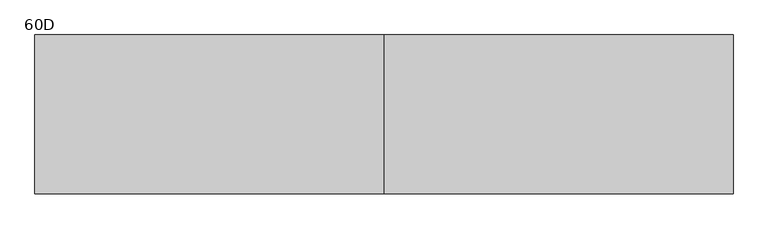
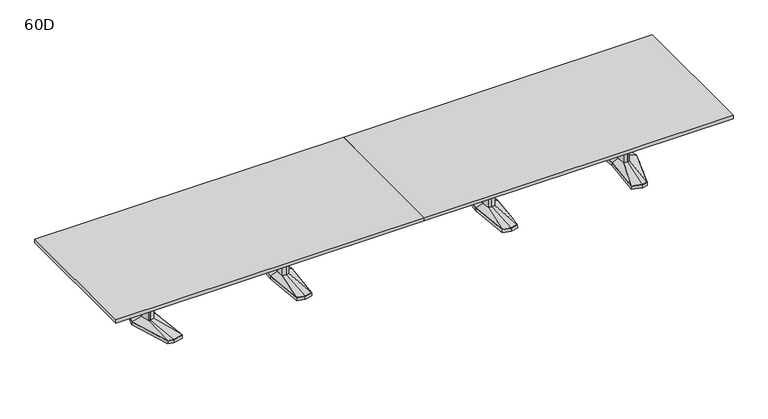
"""IFC4 building model written with IfcOpenShell, lengths in millimetres: furniture geometry, Coalesse_AM_Table_Conference_ETable2_Rectangular_22ft_AluminiumBase : 60D."""

from ifc_helpers import new_model, si_unit, frame, origin, place, context, project, spatial, polyline, outline, extrude, faceted_brep, source, transform, mapped, element, save
from ifc_brep_helpers import plane_surface, spline_surface, advanced_brep


def furniture_60d_99d75cea(model_context):
    return source(origin(), model_context, "Body", "SolidModel", [
        faceted_brep([(1036.3666209, -433.8053819, 38.1), (1117.6, -455.556576, 38.1), (1198.8333791, -433.8053819, 38.1), (1236.6564774, 0.0, 38.1), (1198.8333791, 433.8053819, 38.1), (1117.6, 455.556576, 38.1), (1036.3666209, 433.8053819, 38.1), (998.5435226, 0.0, 38.1), (1034.8817205, -435.0512063, 3.175), (996.95, 0.0, 3.175), (1034.8817205, 435.0512063, 3.175), (1117.6, 457.2, 3.175), (1200.3182795, 435.0512063, 3.175), (1238.25, 0.0, 3.175), (1200.3182795, -435.0512063, 3.175), (1117.6, -457.2, 3.175), (1117.6, 429.2617927, 3.175), (1039.6323194, 408.3850278, 3.175), (1042.8980179, 382.9646737, 3.175), (1117.6, 402.9670094, 3.175), (1192.3019821, 382.9646737, 3.175), (1195.5676806, 408.3850278, 3.175), (1117.6, -429.2617927, 3.175), (1195.5676806, -408.3850278, 3.175), (1192.3019821, -382.9646737, 3.175), (1117.6, -402.9670094, 3.175), (1042.8980179, -382.9646737, 3.175), (1039.6323194, -408.3850278, 3.175), (1045.7425738, 114.6326257, 3.175), (1035.0573924, 0.0, 3.175), (1045.7425738, -114.6326257, 3.175), (1117.6, -133.8761372, 3.175), (1189.4574262, -114.6326257, 3.175), (1200.1426076, 0.0, 3.175), (1189.4574262, 114.6326257, 3.175), (1117.6, 133.8761372, 3.175), (1117.6, 429.2617927, 0.0), (1195.5676806, 408.3850278, 0.0), (1192.3019821, 382.9646737, 0.0), (1117.6, 402.9670094, 0.0), (1042.8980179, 382.9646737, 0.0), (1039.6323194, 408.3850278, 0.0), (1117.6, -429.2617927, 0.0), (1039.6323194, -408.3850278, 0.0), (1042.8980179, -382.9646737, 0.0), (1117.6, -402.9670094, 0.0), (1192.3019821, -382.9646737, 0.0), (1195.5676806, -408.3850278, 0.0), (1045.7425738, 114.6326257, 0.0), (1117.6, 133.8761372, 0.0), (1189.4574262, 114.6326257, 0.0), (1200.1426076, 0.0, 0.0), (1189.4574262, -114.6326257, 0.0), (1117.6, -133.8761372, 0.0), (1045.7425738, -114.6326257, 0.0), (1035.0573924, 0.0, 0.0)], [[[0, 1, 2, 3, 4, 5, 6, 7]], [[8, 9, 10, 11, 12, 13, 14, 15], [16, 17, 18, 19, 20, 21], [22, 23, 24, 25, 26, 27], [28, 29, 30, 31, 32, 33, 34, 35]], [[1, 0, 8, 15]], [[2, 1, 15, 14]], [[3, 2, 14, 13]], [[4, 3, 13, 12]], [[5, 4, 12, 11]], [[6, 5, 11, 10]], [[7, 6, 10, 9]], [[0, 7, 9, 8]], [[36, 37, 38, 39, 40, 41]], [[42, 43, 44, 45, 46, 47]], [[48, 49, 50, 51, 52, 53, 54, 55]], [[36, 41, 17, 16]], [[41, 40, 18, 17]], [[40, 39, 19, 18]], [[39, 38, 20, 19]], [[38, 37, 21, 20]], [[37, 36, 16, 21]], [[42, 47, 23, 22]], [[47, 46, 24, 23]], [[46, 45, 25, 24]], [[45, 44, 26, 25]], [[44, 43, 27, 26]], [[43, 42, 22, 27]], [[48, 55, 29, 28]], [[55, 54, 30, 29]], [[54, 53, 31, 30]], [[53, 52, 32, 31]], [[52, 51, 33, 32]], [[51, 50, 34, 33]], [[50, 49, 35, 34]], [[49, 48, 28, 35]]]),
        faceted_brep([(1081.2167166, 84.6900825, 698.5), (1073.3225513, 0.0, 698.5), (1081.2167166, -84.6900825, 698.5), (1117.6, -94.4335728, 698.5), (1153.9832834, -84.6900825, 698.5), (1161.8774487, 0.0, 698.5), (1153.9832834, 84.6900825, 698.5), (1117.6, 94.4335728, 698.5), (1081.2167166, 84.6900825, 63.5), (1117.6, 94.4335728, 63.5), (1153.9832834, 84.6900825, 63.5), (1161.8774487, 0.0, 63.5), (1153.9832834, -84.6900825, 63.5), (1117.6, -94.4335728, 63.5), (1081.2167166, -84.6900825, 63.5), (1073.3225513, 0.0, 63.5)], [[[0, 1, 2, 3, 4, 5, 6, 7]], [[8, 9, 10, 11, 12, 13, 14, 15]], [[1, 0, 8, 15]], [[2, 1, 15, 14]], [[3, 2, 14, 13]], [[4, 3, 13, 12]], [[5, 4, 12, 11]], [[6, 5, 11, 10]], [[7, 6, 10, 9]], [[0, 7, 9, 8]]]),
        advanced_brep(
        [(1081.2167166, 84.6900825, 63.5), (1073.3225513, 0.0, 63.5), (1081.2167166, -84.6900825, 63.5), (1117.6, -94.4335728, 63.5), (1153.9832834, -84.6900825, 63.5), (1161.8774487, 0.0, 63.5), (1153.9832834, 84.6900825, 63.5), (1117.6, 94.4335728, 63.5), (1036.3666209, 433.8053819, 38.1), (1117.6, 455.556576, 38.1), (1198.8333791, 433.8053819, 38.1), (1236.6564774, 0.0, 38.1), (1198.8333791, -433.8053819, 38.1), (1117.6, -455.556576, 38.1), (1036.3666209, -433.8053819, 38.1), (998.5435226, 0.0, 38.1)],
        [
            (0, 1),
            (1, 2),
            (2, 3),
            (3, 4),
            (4, 5),
            (5, 6),
            (6, 7),
            (7, 0),
            (8, 9),
            (9, 10),
            (10, 11),
            (11, 12),
            (12, 13),
            (13, 14),
            (14, 15),
            (15, 8),
            (15, 1),
            (0, 8),
            (14, 2),
            (13, 3),
            (12, 4),
            (11, 5),
            (10, 6),
            (9, 7),
        ],
        [
            plane_surface(frame((1117.6, 0.0, 63.5), z_axis=(0.0, 0.0, 1.0000000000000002), x_axis=(-0.9659615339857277, -0.25868574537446, 0.0))),
            plane_surface(frame((1117.6, 0.0, 38.1), z_axis=(0.0, 0.0, -1.0000000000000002), x_axis=(-0.9659615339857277, -0.25868574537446, 0.0))),
            spline_surface(1, 1, [[(1036.3666209, 433.8053819, 38.1), (1081.2167166, 84.6900825, 63.5)], [(998.5435226, 0.0, 38.1), (1073.3225513, 0.0, 63.5)]], [2, 2], [2, 2], [0.0, 1.0], [0.0, 1.0]),
            spline_surface(1, 1, [[(998.5435226, 0.0, 38.1), (1073.3225513, 0.0, 63.5)], [(1036.3666209, -433.8053819, 38.1), (1081.2167166, -84.6900825, 63.5)]], [2, 2], [2, 2], [0.0, 1.0], [0.0, 1.0]),
            spline_surface(1, 1, [[(1036.3666209, -433.8053819, 38.1), (1081.2167166, -84.6900825, 63.5)], [(1117.6, -455.556576, 38.1), (1117.6, -94.4335728, 63.5)]], [2, 2], [2, 2], [0.0, 1.0], [0.0, 1.0]),
            spline_surface(1, 1, [[(1117.6, -455.556576, 38.1), (1117.6, -94.4335728, 63.5)], [(1198.8333791, -433.8053819, 38.1), (1153.9832834, -84.6900825, 63.5)]], [2, 2], [2, 2], [0.0, 1.0], [0.0, 1.0]),
            spline_surface(1, 1, [[(1198.8333791, -433.8053819, 38.1), (1153.9832834, -84.6900825, 63.5)], [(1236.6564774, 0.0, 38.1), (1161.8774487, 0.0, 63.5)]], [2, 2], [2, 2], [0.0, 1.0], [0.0, 1.0]),
            spline_surface(1, 1, [[(1236.6564774, 0.0, 38.1), (1161.8774487, 0.0, 63.5)], [(1198.8333791, 433.8053819, 38.1), (1153.9832834, 84.6900825, 63.5)]], [2, 2], [2, 2], [0.0, 1.0], [0.0, 1.0]),
            spline_surface(1, 1, [[(1198.8333791, 433.8053819, 38.1), (1153.9832834, 84.6900825, 63.5)], [(1117.6, 455.556576, 38.1), (1117.6, 94.4335728, 63.5)]], [2, 2], [2, 2], [0.0, 1.0], [0.0, 1.0]),
            spline_surface(1, 1, [[(1117.6, 455.556576, 38.1), (1117.6, 94.4335728, 63.5)], [(1036.3666209, 433.8053819, 38.1), (1081.2167166, 84.6900825, 63.5)]], [2, 2], [2, 2], [0.0, 1.0], [0.0, 1.0]),
        ],
        [
            (0, [[1, 2, 3, 4, 5, 6, 7, 8]]),
            (1, [[9, 10, 11, 12, 13, 14, 15, 16]]),
            (2, [[-16, 17, -1, 18]]),
            (3, [[-15, 19, -2, -17]]),
            (4, [[-14, 20, -3, -19]]),
            (5, [[-13, 21, -4, -20]]),
            (6, [[-12, 22, -5, -21]]),
            (7, [[-11, 23, -6, -22]]),
            (8, [[-10, 24, -7, -23]]),
            (9, [[-9, -18, -8, -24]]),
        ],
    ),
        faceted_brep([(-1198.8333791, -433.8053819, 38.1), (-1117.6, -455.556576, 38.1), (-1036.3666209, -433.8053819, 38.1), (-998.5435226, 0.0, 38.1), (-1036.3666209, 433.8053819, 38.1), (-1117.6, 455.556576, 38.1), (-1198.8333791, 433.8053819, 38.1), (-1236.6564774, 0.0, 38.1), (-1200.3182795, -435.0512063, 3.175), (-1238.25, 0.0, 3.175), (-1200.3182795, 435.0512063, 3.175), (-1117.6, 457.2, 3.175), (-1034.8817205, 435.0512063, 3.175), (-996.95, 0.0, 3.175), (-1034.8817205, -435.0512063, 3.175), (-1117.6, -457.2, 3.175), (-1117.6, 429.2617927, 3.175), (-1195.5676806, 408.3850278, 3.175), (-1192.3019821, 382.9646737, 3.175), (-1117.6, 402.9670094, 3.175), (-1042.8980179, 382.9646737, 3.175), (-1039.6323194, 408.3850278, 3.175), (-1117.6, -429.2617927, 3.175), (-1039.6323194, -408.3850278, 3.175), (-1042.8980179, -382.9646737, 3.175), (-1117.6, -402.9670094, 3.175), (-1192.3019821, -382.9646737, 3.175), (-1195.5676806, -408.3850278, 3.175), (-1189.4574262, 114.6326257, 3.175), (-1200.1426076, 0.0, 3.175), (-1189.4574262, -114.6326257, 3.175), (-1117.6, -133.8761372, 3.175), (-1045.7425738, -114.6326257, 3.175), (-1035.0573924, 0.0, 3.175), (-1045.7425738, 114.6326257, 3.175), (-1117.6, 133.8761372, 3.175), (-1117.6, 429.2617927, 0.0), (-1039.6323194, 408.3850278, 0.0), (-1042.8980179, 382.9646737, 0.0), (-1117.6, 402.9670094, 0.0), (-1192.3019821, 382.9646737, 0.0), (-1195.5676806, 408.3850278, 0.0), (-1117.6, -429.2617927, 0.0), (-1195.5676806, -408.3850278, 0.0), (-1192.3019821, -382.9646737, 0.0), (-1117.6, -402.9670094, 0.0), (-1042.8980179, -382.9646737, 0.0), (-1039.6323194, -408.3850278, 0.0), (-1189.4574262, 114.6326257, 0.0), (-1117.6, 133.8761372, 0.0), (-1045.7425738, 114.6326257, 0.0), (-1035.0573924, 0.0, 0.0), (-1045.7425738, -114.6326257, 0.0), (-1117.6, -133.8761372, 0.0), (-1189.4574262, -114.6326257, 0.0), (-1200.1426076, 0.0, 0.0)], [[[0, 1, 2, 3, 4, 5, 6, 7]], [[8, 9, 10, 11, 12, 13, 14, 15], [16, 17, 18, 19, 20, 21], [22, 23, 24, 25, 26, 27], [28, 29, 30, 31, 32, 33, 34, 35]], [[1, 0, 8, 15]], [[2, 1, 15, 14]], [[3, 2, 14, 13]], [[4, 3, 13, 12]], [[5, 4, 12, 11]], [[6, 5, 11, 10]], [[7, 6, 10, 9]], [[0, 7, 9, 8]], [[36, 37, 38, 39, 40, 41]], [[42, 43, 44, 45, 46, 47]], [[48, 49, 50, 51, 52, 53, 54, 55]], [[36, 41, 17, 16]], [[41, 40, 18, 17]], [[40, 39, 19, 18]], [[39, 38, 20, 19]], [[38, 37, 21, 20]], [[37, 36, 16, 21]], [[42, 47, 23, 22]], [[47, 46, 24, 23]], [[46, 45, 25, 24]], [[45, 44, 26, 25]], [[44, 43, 27, 26]], [[43, 42, 22, 27]], [[48, 55, 29, 28]], [[55, 54, 30, 29]], [[54, 53, 31, 30]], [[53, 52, 32, 31]], [[52, 51, 33, 32]], [[51, 50, 34, 33]], [[50, 49, 35, 34]], [[49, 48, 28, 35]]]),
        faceted_brep([(-1153.9832834, 84.6900825, 698.5), (-1161.8774487, 0.0, 698.5), (-1153.9832834, -84.6900825, 698.5), (-1117.6, -94.4335728, 698.5), (-1081.2167166, -84.6900825, 698.5), (-1073.3225513, 0.0, 698.5), (-1081.2167166, 84.6900825, 698.5), (-1117.6, 94.4335728, 698.5), (-1153.9832834, 84.6900825, 63.5), (-1117.6, 94.4335728, 63.5), (-1081.2167166, 84.6900825, 63.5), (-1073.3225513, 0.0, 63.5), (-1081.2167166, -84.6900825, 63.5), (-1117.6, -94.4335728, 63.5), (-1153.9832834, -84.6900825, 63.5), (-1161.8774487, 0.0, 63.5)], [[[0, 1, 2, 3, 4, 5, 6, 7]], [[8, 9, 10, 11, 12, 13, 14, 15]], [[1, 0, 8, 15]], [[2, 1, 15, 14]], [[3, 2, 14, 13]], [[4, 3, 13, 12]], [[5, 4, 12, 11]], [[6, 5, 11, 10]], [[7, 6, 10, 9]], [[0, 7, 9, 8]]]),
        advanced_brep(
        [(-1153.9832834, 84.6900825, 63.5), (-1161.8774487, 0.0, 63.5), (-1153.9832834, -84.6900825, 63.5), (-1117.6, -94.4335728, 63.5), (-1081.2167166, -84.6900825, 63.5), (-1073.3225513, 0.0, 63.5), (-1081.2167166, 84.6900825, 63.5), (-1117.6, 94.4335728, 63.5), (-1198.8333791, 433.8053819, 38.1), (-1117.6, 455.556576, 38.1), (-1036.3666209, 433.8053819, 38.1), (-998.5435226, 0.0, 38.1), (-1036.3666209, -433.8053819, 38.1), (-1117.6, -455.556576, 38.1), (-1198.8333791, -433.8053819, 38.1), (-1236.6564774, 0.0, 38.1)],
        [
            (0, 1),
            (1, 2),
            (2, 3),
            (3, 4),
            (4, 5),
            (5, 6),
            (6, 7),
            (7, 0),
            (8, 9),
            (9, 10),
            (10, 11),
            (11, 12),
            (12, 13),
            (13, 14),
            (14, 15),
            (15, 8),
            (15, 1),
            (0, 8),
            (14, 2),
            (13, 3),
            (12, 4),
            (11, 5),
            (10, 6),
            (9, 7),
        ],
        [
            plane_surface(frame((-1117.6, 0.0, 63.5), z_axis=(0.0, 0.0, 1.0000000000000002), x_axis=(-0.9659615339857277, -0.25868574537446, 0.0))),
            plane_surface(frame((-1117.6, 0.0, 38.1), z_axis=(0.0, 0.0, -1.0000000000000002), x_axis=(-0.9659615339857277, -0.25868574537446, 0.0))),
            spline_surface(1, 1, [[(-1198.8333791, 433.8053819, 38.1), (-1153.9832834, 84.6900825, 63.5)], [(-1236.6564774, 0.0, 38.1), (-1161.8774487, 0.0, 63.5)]], [2, 2], [2, 2], [0.0, 1.0], [0.0, 1.0]),
            spline_surface(1, 1, [[(-1236.6564774, 0.0, 38.1), (-1161.8774487, 0.0, 63.5)], [(-1198.8333791, -433.8053819, 38.1), (-1153.9832834, -84.6900825, 63.5)]], [2, 2], [2, 2], [0.0, 1.0], [0.0, 1.0]),
            spline_surface(1, 1, [[(-1198.8333791, -433.8053819, 38.1), (-1153.9832834, -84.6900825, 63.5)], [(-1117.6, -455.556576, 38.1), (-1117.6, -94.4335728, 63.5)]], [2, 2], [2, 2], [0.0, 1.0], [0.0, 1.0]),
            spline_surface(1, 1, [[(-1117.6, -455.556576, 38.1), (-1117.6, -94.4335728, 63.5)], [(-1036.3666209, -433.8053819, 38.1), (-1081.2167166, -84.6900825, 63.5)]], [2, 2], [2, 2], [0.0, 1.0], [0.0, 1.0]),
            spline_surface(1, 1, [[(-1036.3666209, -433.8053819, 38.1), (-1081.2167166, -84.6900825, 63.5)], [(-998.5435226, 0.0, 38.1), (-1073.3225513, 0.0, 63.5)]], [2, 2], [2, 2], [0.0, 1.0], [0.0, 1.0]),
            spline_surface(1, 1, [[(-998.5435226, 0.0, 38.1), (-1073.3225513, 0.0, 63.5)], [(-1036.3666209, 433.8053819, 38.1), (-1081.2167166, 84.6900825, 63.5)]], [2, 2], [2, 2], [0.0, 1.0], [0.0, 1.0]),
            spline_surface(1, 1, [[(-1036.3666209, 433.8053819, 38.1), (-1081.2167166, 84.6900825, 63.5)], [(-1117.6, 455.556576, 38.1), (-1117.6, 94.4335728, 63.5)]], [2, 2], [2, 2], [0.0, 1.0], [0.0, 1.0]),
            spline_surface(1, 1, [[(-1117.6, 455.556576, 38.1), (-1117.6, 94.4335728, 63.5)], [(-1198.8333791, 433.8053819, 38.1), (-1153.9832834, 84.6900825, 63.5)]], [2, 2], [2, 2], [0.0, 1.0], [0.0, 1.0]),
        ],
        [
            (0, [[1, 2, 3, 4, 5, 6, 7, 8]]),
            (1, [[9, 10, 11, 12, 13, 14, 15, 16]]),
            (2, [[-16, 17, -1, 18]]),
            (3, [[-15, 19, -2, -17]]),
            (4, [[-14, 20, -3, -19]]),
            (5, [[-13, 21, -4, -20]]),
            (6, [[-12, 22, -5, -21]]),
            (7, [[-11, 23, -6, -22]]),
            (8, [[-10, 24, -7, -23]]),
            (9, [[-9, -18, -8, -24]]),
        ],
    ),
        faceted_brep([(2548.0994335, 455.5848221, 38.1), (2438.5218777, 426.2263816, 38.1), (2479.6851217, 0.0, 38.1), (2438.5218777, -426.2263816, 38.1), (2548.0994335, -455.5848221, 38.1), (2604.2257896, -440.5478297, 38.1), (2741.5371769, 0.0, 38.1), (2604.2257896, 440.5478297, 38.1), (2548.0994254, 457.2283104, 3.175), (2605.4811972, 441.8549756, 3.175), (2743.2, 0.0, 3.175), (2605.4811972, -441.8549756, 3.175), (2548.0994254, -457.2283104, 3.175), (2436.8125, -427.4118891, 3.175), (2478.0902356, 0.0, 3.175), (2436.8125, 427.4118891, 3.175), (2551.688865, 428.3273875, 3.175), (2446.6405728, 402.1057253, 3.175), (2454.759268, 377.985069, 3.175), (2555.2782966, 401.0699529, 3.175), (2605.8379225, 387.524361, 3.175), (2605.0318561, 414.0360954, 3.175), (2551.688865, -428.3273875, 3.175), (2605.0318561, -414.0360954, 3.175), (2605.8379225, -387.524361, 3.175), (2555.2782966, -401.0699529, 3.175), (2454.759268, -377.985069, 3.175), (2446.6405728, -402.1057253, 3.175), (2678.2841121, 0.0, 3.175), (2646.0147111, 120.4193755, 3.175), (2597.3674722, 133.471665, 3.175), (2517.4868026, 119.4176561, 3.175), (2506.3555966, 0.0, 3.175), (2517.4868026, -119.4176561, 3.175), (2597.3674722, -133.471665, 3.175), (2646.0147111, -120.4193755, 3.175), (2551.688865, 428.3273875, 0.0), (2605.0318561, 414.0360954, 0.0), (2605.8379225, 387.524361, 0.0), (2555.2782966, 401.0699529, 0.0), (2454.759268, 377.985069, 0.0), (2446.6405728, 402.1057253, 0.0), (2551.688865, -428.3273875, 0.0), (2446.6405728, -402.1057253, 0.0), (2454.759268, -377.985069, 0.0), (2555.2782966, -401.0699529, 0.0), (2605.8379225, -387.524361, 0.0), (2605.0318561, -414.0360954, 0.0), (2678.2841121, 0.0, 0.0), (2646.0147111, -120.4193755, 0.0), (2597.3674722, -133.471665, 0.0), (2517.4868026, -119.4176561, 0.0), (2506.3555966, 0.0, 0.0), (2517.4868026, 119.4176561, 0.0), (2597.3674722, 133.471665, 0.0), (2646.0147111, 120.4193755, 0.0)], [[[0, 1, 2, 3, 4, 5, 6, 7]], [[8, 9, 10, 11, 12, 13, 14, 15], [16, 17, 18, 19, 20, 21], [22, 23, 24, 25, 26, 27], [28, 29, 30, 31, 32, 33, 34, 35]], [[7, 9, 8, 0]], [[6, 10, 9, 7]], [[5, 11, 10, 6]], [[4, 12, 11, 5]], [[3, 13, 12, 4]], [[2, 14, 13, 3]], [[1, 15, 14, 2]], [[0, 8, 15, 1]], [[36, 37, 38, 39, 40, 41]], [[42, 43, 44, 45, 46, 47]], [[48, 49, 50, 51, 52, 53, 54, 55]], [[36, 16, 21, 37]], [[37, 21, 20, 38]], [[38, 20, 19, 39]], [[39, 19, 18, 40]], [[40, 18, 17, 41]], [[41, 17, 16, 36]], [[42, 22, 27, 43]], [[43, 27, 26, 44]], [[44, 26, 25, 45]], [[45, 25, 24, 46]], [[46, 24, 23, 47]], [[47, 23, 22, 42]], [[48, 28, 35, 49]], [[49, 35, 34, 50]], [[50, 34, 33, 51]], [[51, 33, 32, 52]], [[52, 32, 31, 53]], [[53, 31, 30, 54]], [[54, 30, 29, 55]], [[55, 29, 28, 48]]]),
        faceted_brep([(2638.8398336, 0.0, 698.5), (2614.9046046, 89.3188359, 698.5), (2598.0512484, 93.8406728, 698.5), (2595.6514011, 94.4845635, 698.5), (2552.723896, 86.9320037, 698.5), (2544.6207556, 0.0, 698.5), (2552.723896, -86.9320037, 698.5), (2595.6514011, -94.4845635, 698.5), (2598.0512484, -93.8406728, 698.5), (2614.9046046, -89.3188359, 698.5), (2638.8398336, 0.0, 63.5), (2614.9046046, -89.3188359, 63.5), (2598.0512484, -93.8406728, 63.5), (2595.6514011, -94.4845635, 63.5), (2552.723896, -86.9320037, 63.5), (2544.6207556, 0.0, 63.5), (2552.723896, 86.9320037, 63.5), (2595.6514011, 94.4845635, 63.5), (2598.0512484, 93.8406728, 63.5), (2614.9046046, 89.3188359, 63.5)], [[[0, 1, 2, 3, 4, 5, 6, 7, 8, 9]], [[10, 11, 12, 13, 14, 15, 16, 17, 18, 19]], [[9, 11, 10, 0]], [[8, 12, 11, 9]], [[7, 13, 12, 8]], [[6, 14, 13, 7]], [[5, 15, 14, 6]], [[4, 16, 15, 5]], [[3, 17, 16, 4]], [[2, 18, 17, 3]], [[1, 19, 18, 2]], [[0, 10, 19, 1]]]),
        advanced_brep(
        [(2595.6514011, 94.4845635, 63.5), (2552.723896, 86.9320037, 63.5), (2544.6207556, 0.0, 63.5), (2552.723896, -86.9320037, 63.5), (2595.6514011, -94.4845635, 63.5), (2614.9046046, -89.3188359, 63.5), (2638.8398336, 0.0, 63.5), (2614.9046046, 89.3188359, 63.5), (2548.0994335, 455.5848221, 38.1), (2604.2257896, 440.5478297, 38.1), (2741.5371769, 0.0, 38.1), (2604.2257896, -440.5478297, 38.1), (2548.0994335, -455.5848221, 38.1), (2438.5218777, -426.2263816, 38.1), (2479.6851217, 0.0, 38.1), (2438.5218777, 426.2263816, 38.1)],
        [
            (0, 1),
            (1, 2),
            (2, 3),
            (3, 4),
            (4, 5),
            (5, 6),
            (6, 7),
            (7, 0),
            (8, 9),
            (9, 10),
            (10, 11),
            (11, 12),
            (12, 13),
            (13, 14),
            (14, 15),
            (15, 8),
            (8, 0),
            (7, 9),
            (6, 10),
            (5, 11),
            (4, 12),
            (3, 13),
            (2, 14),
            (1, 15),
        ],
        [
            plane_surface(frame((2588.7525491, 0.0, 63.5), z_axis=(0.0, 0.0, 1.0), x_axis=(-0.25884244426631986, -0.9659195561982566, 0.0))),
            plane_surface(frame((2550.3645625, 0.0, 38.1), z_axis=(0.0, 0.0, -1.0), x_axis=(-0.25884244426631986, -0.9659195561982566, 0.0))),
            spline_surface(1, 1, [[(2548.0994335, 455.5848221, 38.1), (2604.2257896, 440.5478297, 38.1)], [(2595.6514011, 94.4845635, 63.5), (2614.9046046, 89.3188359, 63.5)]], [2, 2], [2, 2], [0.0, 1.0], [0.0, 1.0]),
            spline_surface(1, 1, [[(2604.2257896, 440.5478297, 38.1), (2741.5371769, 0.0, 38.1)], [(2614.9046046, 89.3188359, 63.5), (2638.8398336, 0.0, 63.5)]], [2, 2], [2, 2], [0.0, 1.0], [0.0, 1.0]),
            spline_surface(1, 1, [[(2741.5371769, 0.0, 38.1), (2604.2257896, -440.5478297, 38.1)], [(2638.8398336, 0.0, 63.5), (2614.9046046, -89.3188359, 63.5)]], [2, 2], [2, 2], [0.0, 1.0], [0.0, 1.0]),
            spline_surface(1, 1, [[(2604.2257896, -440.5478297, 38.1), (2548.0994335, -455.5848221, 38.1)], [(2614.9046046, -89.3188359, 63.5), (2595.6514011, -94.4845635, 63.5)]], [2, 2], [2, 2], [0.0, 1.0], [0.0, 1.0]),
            spline_surface(1, 1, [[(2548.0994335, -455.5848221, 38.1), (2438.5218777, -426.2263816, 38.1)], [(2595.6514011, -94.4845635, 63.5), (2552.723896, -86.9320037, 63.5)]], [2, 2], [2, 2], [0.0, 1.0], [0.0, 1.0]),
            spline_surface(1, 1, [[(2438.5218777, -426.2263816, 38.1), (2479.6851217, 0.0, 38.1)], [(2552.723896, -86.9320037, 63.5), (2544.6207556, 0.0, 63.5)]], [2, 2], [2, 2], [0.0, 1.0], [0.0, 1.0]),
            spline_surface(1, 1, [[(2479.6851217, 0.0, 38.1), (2438.5218777, 426.2263816, 38.1)], [(2544.6207556, 0.0, 63.5), (2552.723896, 86.9320037, 63.5)]], [2, 2], [2, 2], [0.0, 1.0], [0.0, 1.0]),
            spline_surface(1, 1, [[(2438.5218777, 426.2263816, 38.1), (2548.0994335, 455.5848221, 38.1)], [(2552.723896, 86.9320037, 63.5), (2595.6514011, 94.4845635, 63.5)]], [2, 2], [2, 2], [0.0, 1.0], [0.0, 1.0]),
        ],
        [
            (0, [[1, 2, 3, 4, 5, 6, 7, 8]]),
            (1, [[9, 10, 11, 12, 13, 14, 15, 16]]),
            (2, [[17, -8, 18, -9]]),
            (3, [[-18, -7, 19, -10]]),
            (4, [[-19, -6, 20, -11]]),
            (5, [[-20, -5, 21, -12]]),
            (6, [[-21, -4, 22, -13]]),
            (7, [[-22, -3, 23, -14]]),
            (8, [[-23, -2, 24, -15]]),
            (9, [[-24, -1, -17, -16]]),
        ],
    ),
        faceted_brep([(-2548.0994335, 455.5848221, 38.1), (-2604.2257896, 440.5478297, 38.1), (-2741.5371769, 0.0, 38.1), (-2604.2257896, -440.5478297, 38.1), (-2548.0994335, -455.5848221, 38.1), (-2438.5218777, -426.2263816, 38.1), (-2479.6851217, 0.0, 38.1), (-2438.5218777, 426.2263816, 38.1), (-2548.0994254, 457.2283104, 3.175), (-2436.8125, 427.4118891, 3.175), (-2478.0902356, 0.0, 3.175), (-2436.8125, -427.4118891, 3.175), (-2548.0994254, -457.2283104, 3.175), (-2605.4811972, -441.8549756, 3.175), (-2743.2, 0.0, 3.175), (-2605.4811972, 441.8549756, 3.175), (-2551.688865, 428.3273875, 3.175), (-2605.0318561, 414.0360954, 3.175), (-2605.8379225, 387.524361, 3.175), (-2555.2782966, 401.0699529, 3.175), (-2454.759268, 377.985069, 3.175), (-2446.6405728, 402.1057253, 3.175), (-2551.688865, -428.3273875, 3.175), (-2446.6405728, -402.1057253, 3.175), (-2454.759268, -377.985069, 3.175), (-2555.2782966, -401.0699529, 3.175), (-2605.8379225, -387.524361, 3.175), (-2605.0318561, -414.0360954, 3.175), (-2678.2841121, 0.0, 3.175), (-2646.0147111, -120.4193755, 3.175), (-2597.3674722, -133.471665, 3.175), (-2517.4868026, -119.4176561, 3.175), (-2506.3555966, 0.0, 3.175), (-2517.4868026, 119.4176561, 3.175), (-2597.3674722, 133.471665, 3.175), (-2646.0147111, 120.4193755, 3.175), (-2551.688865, 428.3273875, 0.0), (-2446.6405728, 402.1057253, 0.0), (-2454.759268, 377.985069, 0.0), (-2555.2782966, 401.0699529, 0.0), (-2605.8379225, 387.524361, 0.0), (-2605.0318561, 414.0360954, 0.0), (-2551.688865, -428.3273875, 0.0), (-2605.0318561, -414.0360954, 0.0), (-2605.8379225, -387.524361, 0.0), (-2555.2782966, -401.0699529, 0.0), (-2454.759268, -377.985069, 0.0), (-2446.6405728, -402.1057253, 0.0), (-2678.2841121, 0.0, 0.0), (-2646.0147111, 120.4193755, 0.0), (-2597.3674722, 133.471665, 0.0), (-2517.4868026, 119.4176561, 0.0), (-2506.3555966, 0.0, 0.0), (-2517.4868026, -119.4176561, 0.0), (-2597.3674722, -133.471665, 0.0), (-2646.0147111, -120.4193755, 0.0)], [[[0, 1, 2, 3, 4, 5, 6, 7]], [[8, 9, 10, 11, 12, 13, 14, 15], [16, 17, 18, 19, 20, 21], [22, 23, 24, 25, 26, 27], [28, 29, 30, 31, 32, 33, 34, 35]], [[1, 0, 8, 15]], [[2, 1, 15, 14]], [[3, 2, 14, 13]], [[4, 3, 13, 12]], [[5, 4, 12, 11]], [[6, 5, 11, 10]], [[7, 6, 10, 9]], [[0, 7, 9, 8]], [[36, 37, 38, 39, 40, 41]], [[42, 43, 44, 45, 46, 47]], [[48, 49, 50, 51, 52, 53, 54, 55]], [[36, 41, 17, 16]], [[41, 40, 18, 17]], [[40, 39, 19, 18]], [[39, 38, 20, 19]], [[38, 37, 21, 20]], [[37, 36, 16, 21]], [[42, 47, 23, 22]], [[47, 46, 24, 23]], [[46, 45, 25, 24]], [[45, 44, 26, 25]], [[44, 43, 27, 26]], [[43, 42, 22, 27]], [[48, 55, 29, 28]], [[55, 54, 30, 29]], [[54, 53, 31, 30]], [[53, 52, 32, 31]], [[52, 51, 33, 32]], [[51, 50, 34, 33]], [[50, 49, 35, 34]], [[49, 48, 28, 35]]]),
        faceted_brep([(-2638.8398336, 0.0, 698.5), (-2614.9046046, -89.3188359, 698.5), (-2598.0512484, -93.8406728, 698.5), (-2595.6514011, -94.4845635, 698.5), (-2552.723896, -86.9320037, 698.5), (-2544.6207556, 0.0, 698.5), (-2552.723896, 86.9320037, 698.5), (-2595.6514011, 94.4845635, 698.5), (-2598.0512484, 93.8406728, 698.5), (-2614.9046046, 89.3188359, 698.5), (-2638.8398336, 0.0, 63.5), (-2614.9046046, 89.3188359, 63.5), (-2598.0512484, 93.8406728, 63.5), (-2595.6514011, 94.4845635, 63.5), (-2552.723896, 86.9320037, 63.5), (-2544.6207556, 0.0, 63.5), (-2552.723896, -86.9320037, 63.5), (-2595.6514011, -94.4845635, 63.5), (-2598.0512484, -93.8406728, 63.5), (-2614.9046046, -89.3188359, 63.5)], [[[0, 1, 2, 3, 4, 5, 6, 7, 8, 9]], [[10, 11, 12, 13, 14, 15, 16, 17, 18, 19]], [[1, 0, 10, 19]], [[2, 1, 19, 18]], [[3, 2, 18, 17]], [[4, 3, 17, 16]], [[5, 4, 16, 15]], [[6, 5, 15, 14]], [[7, 6, 14, 13]], [[8, 7, 13, 12]], [[9, 8, 12, 11]], [[0, 9, 11, 10]]]),
        advanced_brep(
        [(-2595.6514011, 94.4845635, 63.5), (-2614.9046046, 89.3188359, 63.5), (-2638.8398336, 0.0, 63.5), (-2614.9046046, -89.3188359, 63.5), (-2595.6514011, -94.4845635, 63.5), (-2552.723896, -86.9320037, 63.5), (-2544.6207556, 0.0, 63.5), (-2552.723896, 86.9320037, 63.5), (-2548.0994335, 455.5848221, 38.1), (-2438.5218777, 426.2263816, 38.1), (-2479.6851217, 0.0, 38.1), (-2438.5218777, -426.2263816, 38.1), (-2548.0994335, -455.5848221, 38.1), (-2604.2257896, -440.5478297, 38.1), (-2741.5371769, 0.0, 38.1), (-2604.2257896, 440.5478297, 38.1)],
        [
            (0, 1),
            (1, 2),
            (2, 3),
            (3, 4),
            (4, 5),
            (5, 6),
            (6, 7),
            (7, 0),
            (8, 9),
            (9, 10),
            (10, 11),
            (11, 12),
            (12, 13),
            (13, 14),
            (14, 15),
            (15, 8),
            (15, 1),
            (0, 8),
            (14, 2),
            (13, 3),
            (12, 4),
            (11, 5),
            (10, 6),
            (9, 7),
        ],
        [
            plane_surface(frame((-2588.7525491, 0.0, 63.5), z_axis=(0.0, 0.0, 1.0), x_axis=(0.25884244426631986, -0.9659195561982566, 0.0))),
            plane_surface(frame((-2550.3645625, 0.0, 38.1), z_axis=(0.0, 0.0, -1.0), x_axis=(0.25884244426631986, -0.9659195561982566, 0.0))),
            spline_surface(1, 1, [[(-2548.0994335, 455.5848221, 38.1), (-2595.6514011, 94.4845635, 63.5)], [(-2604.2257896, 440.5478297, 38.1), (-2614.9046046, 89.3188359, 63.5)]], [2, 2], [2, 2], [0.0, 1.0], [0.0, 1.0]),
            spline_surface(1, 1, [[(-2604.2257896, 440.5478297, 38.1), (-2614.9046046, 89.3188359, 63.5)], [(-2741.5371769, 0.0, 38.1), (-2638.8398336, 0.0, 63.5)]], [2, 2], [2, 2], [0.0, 1.0], [0.0, 1.0]),
            spline_surface(1, 1, [[(-2741.5371769, 0.0, 38.1), (-2638.8398336, 0.0, 63.5)], [(-2604.2257896, -440.5478297, 38.1), (-2614.9046046, -89.3188359, 63.5)]], [2, 2], [2, 2], [0.0, 1.0], [0.0, 1.0]),
            spline_surface(1, 1, [[(-2604.2257896, -440.5478297, 38.1), (-2614.9046046, -89.3188359, 63.5)], [(-2548.0994335, -455.5848221, 38.1), (-2595.6514011, -94.4845635, 63.5)]], [2, 2], [2, 2], [0.0, 1.0], [0.0, 1.0]),
            spline_surface(1, 1, [[(-2548.0994335, -455.5848221, 38.1), (-2595.6514011, -94.4845635, 63.5)], [(-2438.5218777, -426.2263816, 38.1), (-2552.723896, -86.9320037, 63.5)]], [2, 2], [2, 2], [0.0, 1.0], [0.0, 1.0]),
            spline_surface(1, 1, [[(-2438.5218777, -426.2263816, 38.1), (-2552.723896, -86.9320037, 63.5)], [(-2479.6851217, 0.0, 38.1), (-2544.6207556, 0.0, 63.5)]], [2, 2], [2, 2], [0.0, 1.0], [0.0, 1.0]),
            spline_surface(1, 1, [[(-2479.6851217, 0.0, 38.1), (-2544.6207556, 0.0, 63.5)], [(-2438.5218777, 426.2263816, 38.1), (-2552.723896, 86.9320037, 63.5)]], [2, 2], [2, 2], [0.0, 1.0], [0.0, 1.0]),
            spline_surface(1, 1, [[(-2438.5218777, 426.2263816, 38.1), (-2552.723896, 86.9320037, 63.5)], [(-2548.0994335, 455.5848221, 38.1), (-2595.6514011, 94.4845635, 63.5)]], [2, 2], [2, 2], [0.0, 1.0], [0.0, 1.0]),
        ],
        [
            (0, [[1, 2, 3, 4, 5, 6, 7, 8]]),
            (1, [[9, 10, 11, 12, 13, 14, 15, 16]]),
            (2, [[-16, 17, -1, 18]]),
            (3, [[-15, 19, -2, -17]]),
            (4, [[-14, 20, -3, -19]]),
            (5, [[-13, 21, -4, -20]]),
            (6, [[-12, 22, -5, -21]]),
            (7, [[-11, 23, -6, -22]]),
            (8, [[-10, 24, -7, -23]]),
            (9, [[-9, -18, -8, -24]]),
        ],
    ),
        extrude(outline(polyline([(96.8375, 698.5), (103.1875, 698.5), (103.1875, 476.25), (-103.1875, 476.25), (-103.1875, 698.5), (-96.8375, 698.5), (-96.8375, 482.6), (96.8375, 482.6), (96.8375, 698.5)])), frame((1161.8774487, 0.0, 0.0), z_axis=(1.0, 0.0, 0.0), x_axis=(0.0, 1.0, 0.0)), (0.0, 0.0, 1.0), 1382.8850513),
        extrude(outline(polyline([(96.8375, 698.5), (103.1875, 698.5), (103.1875, 476.25), (-103.1875, 476.25), (-103.1875, 698.5), (-96.8375, 698.5), (-96.8375, 482.6), (96.8375, 482.6), (96.8375, 698.5)])), frame((-1073.3225513, 0.0, 0.0), z_axis=(1.0, 0.0, 0.0), x_axis=(0.0, 1.0, 0.0)), (0.0, 0.0, 1.0), 2146.6451026),
        extrude(outline(polyline([(3352.8, 762.0), (3352.8, -762.0), (0.0, -762.0), (0.0, 762.0), (3352.8, 762.0)])), frame((0.0, 0.0, 698.5), z_axis=(0.0, 0.0, 1.0), x_axis=(1.0, 0.0, 0.0)), (0.0, 0.0, 1.0), 38.1),
        extrude(outline(polyline([(0.0, 762.0), (0.0, -762.0), (-3352.8, -762.0), (-3352.8, 762.0), (0.0, 762.0)])), frame((0.0, 0.0, 698.5), z_axis=(0.0, 0.0, 1.0), x_axis=(1.0, 0.0, 0.0)), (0.0, 0.0, 1.0), 38.1),
        extrude(outline(polyline([(96.8375, 698.5), (103.1875, 698.5), (103.1875, 476.25), (-103.1875, 476.25), (-103.1875, 698.5), (-96.8375, 698.5), (-96.8375, 482.6), (96.8375, 482.6), (96.8375, 698.5)])), frame((-2544.7625, 0.0, 0.0), z_axis=(1.0, 0.0, 0.0), x_axis=(0.0, 1.0, 0.0)), (0.0, 0.0, 1.0), 1382.8850513),
    ])


if __name__ == "__main__":
    model = new_model("IFC4")
    model_context = context("Model", 3, world=origin())
    ifc_project = project(units=[si_unit("LENGTHUNIT", "METRE", prefix="MILLI")], contexts=[model_context])
    site = spatial("IfcSite", under=ifc_project)
    building = spatial("IfcBuilding", under=site)
    placement = place(None, origin())
    furniture_60d_shape = furniture_60d_99d75cea(model_context)
    element("IfcFurniture", 1, ObjectType="Coalesse_AM_Table_Conference_ETable2_Rectangular_22ft_AluminiumBase : 60D", at=placement, inside=building, context=model_context, shape_type="MappedRepresentation", body=[
        mapped(furniture_60d_shape, transform((0.0, 0.0, 0.0), x_axis=(1.0, 0.0, 0.0), y_axis=(0.0, 1.0, 0.0), z_axis=(0.0, 0.0, 1.0))),
    ])
    save(model, "model.ifc")
